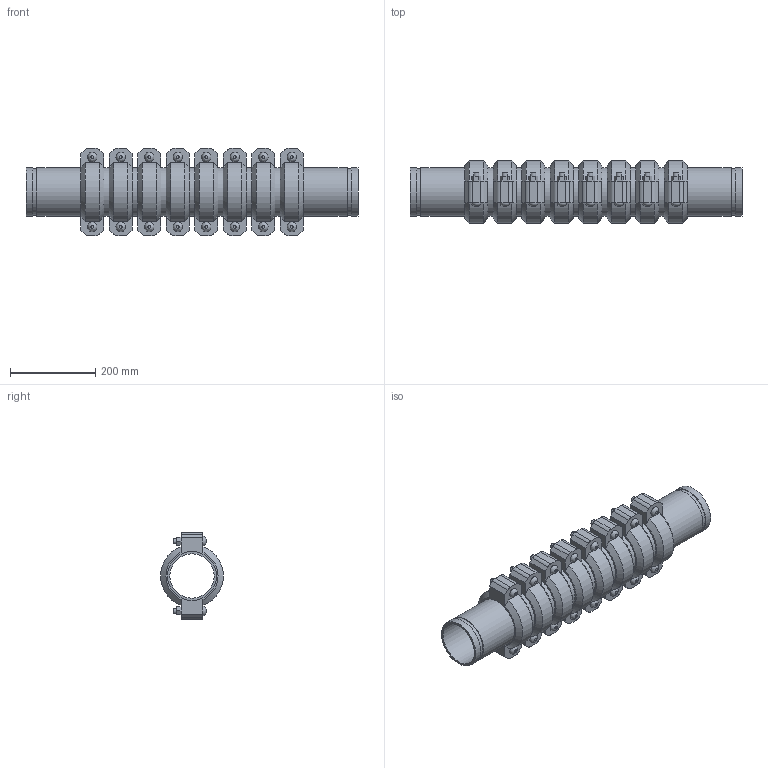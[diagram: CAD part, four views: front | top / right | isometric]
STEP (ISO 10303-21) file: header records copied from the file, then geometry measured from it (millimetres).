
FILE_DESCRIPTION(/* description */ ('VIC EXPANSION JOINT 8 COUPLINGS EXPANDED STYLE 155 (OGS)','CAx-IF Rec.Pracs.---Representation and Presentation of Product Manufacturing Information (PMI)---4.0---2014-10-13'),/* implementation_level */ '2;1');
FILE_NAME(/* name */ 'C:\Users\kkamble\AppData\Roaming\Autodesk\ApplicationPlugins\Victaulic.Temp\A413\Victaulic_IPS_Expansion Joint_Expanded_8 Couplings_Style 155 (OGS)_4 (100).stp',/* time_stamp */ '2021-06-27T00:09:10+02:00',/* author */ ('kkamble'),/* organization */ ('Victaulic'),/* preprocessor_version */ 'ST-DEVELOPER v17.2',/* originating_system */ 'Autodesk Inventor 2019',/* authorisation */ '');
FILE_SCHEMA (('AP242_MANAGED_MODEL_BASED_3D_ENGINEERING_MIM_LF { 1 0 10303 442 1 1 4 }'));
Length unit declared in the file: inch
Products named in the file (4): 155-04.0; Nipple-04.0; Nipple-04.0_1; 075-04.0
Assembly tree (17 placements, depth 2):
  155-04.0
    Nipple-04.0  x2
    Nipple-04.0_1  x7
    075-04.0  x8
Bounding box: 778 x 147.32 x 203.96 mm (x, y, z)
Volume: 5068392.5 mm3; surface area: 1195513.4 mm2
Topology: 17 solids, 33 shells, 564 faces, 1334 edges, 936 vertices
Faces by surface type: plane 342, cylinder 174, cone 32, bspline 16
Full cylindrical faces by diameter (mm): 12.7 x32, 14.605 x16, 103.988 x9, 107.95 x8, 110.084 x18, 114.3 x43
Entity records: 2849 total; most frequent: CARTESIAN_POINT 501, DIRECTION 477, ORIENTED_EDGE 386, EDGE_CURVE 193, AXIS2_PLACEMENT_3D 192, VERTEX_POINT 138, EDGE_LOOP 107, LINE 93
